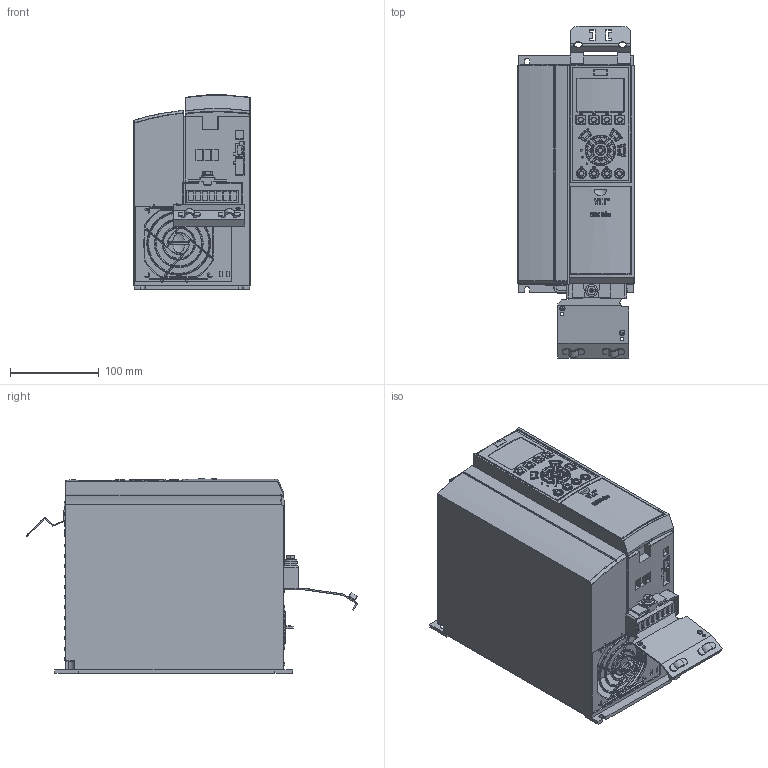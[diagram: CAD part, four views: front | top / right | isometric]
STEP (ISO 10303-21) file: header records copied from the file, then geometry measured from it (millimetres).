
FILE_DESCRIPTION((''),'2;1');
FILE_NAME('DANFOSS-FC100-A3-IP20-AB-048','2007-02-21T',('Janardhan.Mankala'),('dan Drives A/S'),'PRO/ENGINEER BY PARAMETRIC TECHNOLOGY CORPORATION, 2006200','PRO/ENGINEER BY PARAMETRIC TECHNOLOGY CORPORATION, 2006200','');
FILE_SCHEMA(('CONFIG_CONTROL_DESIGN', 'GEOMETRIC_VALIDATION_PROPERTIES_MIM'));
Products named in the file (1): DANFOSS-FC100-A3-IP20-AB-048
Bounding box: 131.03 x 374 x 219.5 mm (x, y, z)
Volume: 6432014.8 mm3; surface area: 310819.9 mm2
Topology: 16 solids, 32 shells, 3059 faces, 7563 edges, 4589 vertices
Faces by surface type: cylinder 1012, plane 881, bspline 692, torus 273, extrusion 89, sphere 81, cone 31
Entity records: 169475 total; most frequent: CARTESIAN_POINT 57446, ORIENTED_EDGE 15072, DIRECTION 11572, PRESENTATION_STYLE_ASSIGNMENT 10167, STYLED_ITEM 7925, CURVE_STYLE 7537, EDGE_CURVE 7536, VERTEX_POINT 4589
